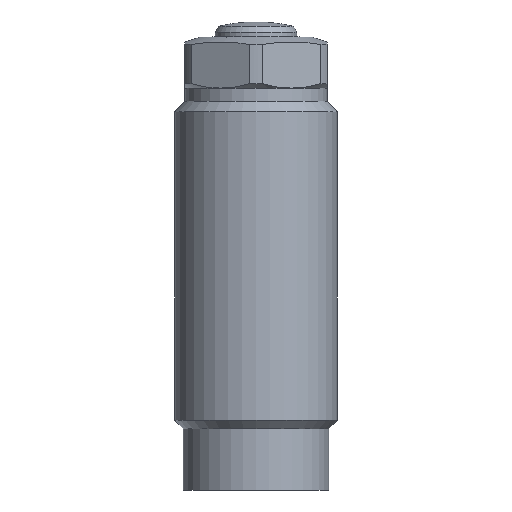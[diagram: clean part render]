
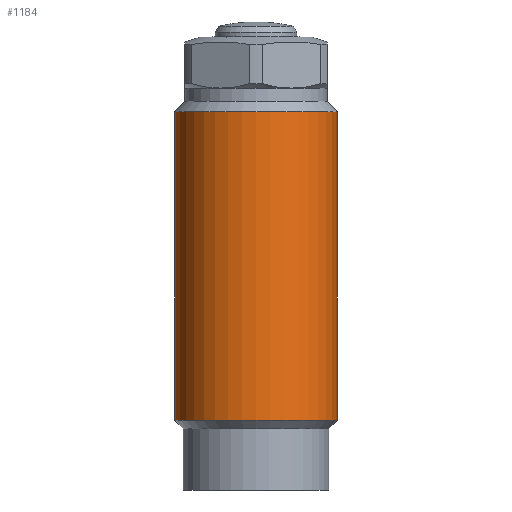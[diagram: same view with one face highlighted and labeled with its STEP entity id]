
A CAD part, front view. The second image highlights one B-rep face of the part: STEP entity #1184.
In plain terms, the highlighted cylindrical face has radius 8 mm (diameter 16 mm), a partial arc.
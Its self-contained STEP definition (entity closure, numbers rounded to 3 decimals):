
#1121=CARTESIAN_POINT('',(-8.,0.0,-37.65));
#1122=VERTEX_POINT('',#1121);
#1130=CARTESIAN_POINT('',(8.,0.0,-37.65));
#1131=VERTEX_POINT('',#1130);
#1138=CARTESIAN_POINT('',(0.0,0.0,-37.65));
#1139=DIRECTION('',(0.0,0.0,1.0));
#1140=DIRECTION('',(1.0,0.0,0.0));
#1141=AXIS2_PLACEMENT_3D('',#1138,#1139,#1140);
#1142=CIRCLE('',#1141,8.);
#1143=EDGE_CURVE('no 1670',#1122,#1131,#1142,.T.);
#1153=CARTESIAN_POINT('',(-8.,0.0,-7.3));
#1154=VERTEX_POINT('',#1153);
#1155=CARTESIAN_POINT('',(-8.,0.0,-37.65));
#1156=DIRECTION('',(0.,-0.0,1.0));
#1157=VECTOR('',#1156,1.0);
#1158=LINE('',#1155,#1157);
#1159=EDGE_CURVE('no 1680',#1122,#1154,#1158,.T.);
#1160=ORIENTED_EDGE('',*,*,#1159,.F.);
#1161=ORIENTED_EDGE('',*,*,#1143,.T.);
#1162=CARTESIAN_POINT('',(8.,0.0,-7.3));
#1163=VERTEX_POINT('',#1162);
#1164=CARTESIAN_POINT('',(8.,0.0,-37.65));
#1165=DIRECTION('',(0.,0.0,1.0));
#1166=VECTOR('',#1165,1.0);
#1167=LINE('',#1164,#1166);
#1168=EDGE_CURVE('no 1688',#1131,#1163,#1167,.T.);
#1169=ORIENTED_EDGE('',*,*,#1168,.T.);
#1170=CARTESIAN_POINT('',(0.0,0.0,-7.3));
#1171=DIRECTION('',(0.0,0.0,1.0));
#1172=DIRECTION('',(1.0,0.0,0.0));
#1173=AXIS2_PLACEMENT_3D('',#1170,#1171,#1172);
#1174=CIRCLE('',#1173,8.);
#1175=EDGE_CURVE('no 1692',#1154,#1163,#1174,.T.);
#1176=ORIENTED_EDGE('',*,*,#1175,.F.);
#1177=EDGE_LOOP('',(#1160,#1161,#1169,#1176));
#1178=FACE_OUTER_BOUND('',#1177,.T.);
#1179=CARTESIAN_POINT('',(0.0,0.0,8.838));
#1180=DIRECTION('',(0.0,0.0,1.0));
#1181=DIRECTION('',(0.0,1.0,0.0));
#1182=AXIS2_PLACEMENT_3D('',#1179,#1180,#1181);
#1183=CYLINDRICAL_SURFACE('',#1182,8.);
#1184=ADVANCED_FACE('no 1673',(#1178),#1183,.T.);
